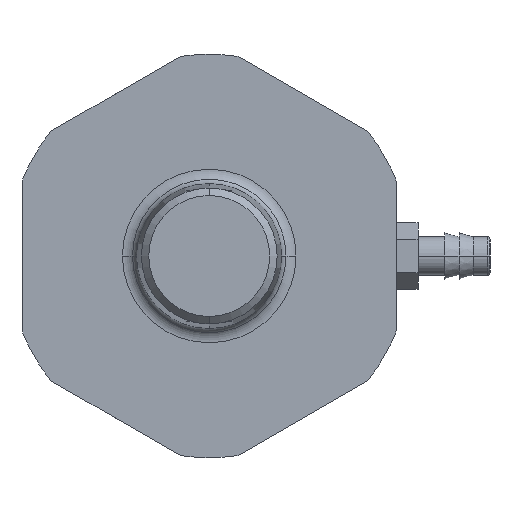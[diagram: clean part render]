
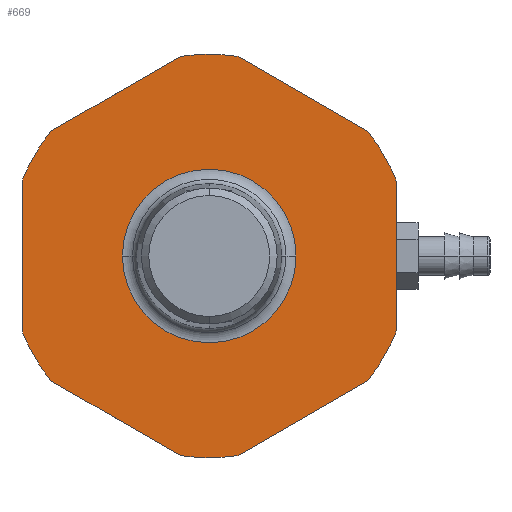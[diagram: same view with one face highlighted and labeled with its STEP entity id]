
A CAD part, left-side view. The second image highlights one B-rep face of the part: STEP entity #669.
In plain terms, the highlighted planar face has unit normal (-1, 0, 0).
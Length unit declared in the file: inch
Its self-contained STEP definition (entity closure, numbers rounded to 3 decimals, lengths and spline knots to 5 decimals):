
#203=CARTESIAN_POINT('',(-3.375,0.,0.));
#204=DIRECTION('',(-1.,0.,0.));
#205=DIRECTION('',(0.,0.143,-0.99));
#206=AXIS2_PLACEMENT_3D('',#203,#204,#205);
#208=DIRECTION('',(0.,-0.866,-0.5));
#209=VECTOR('',#208,0.64952);
#210=CARTESIAN_POINT('',(-3.375,0.6875,-0.54127));
#211=LINE('',#210,#209);
#212=CARTESIAN_POINT('',(-3.375,0.,0.));
#213=DIRECTION('',(-1.,0.,0.));
#214=DIRECTION('',(0.,0.866,-0.5));
#215=AXIS2_PLACEMENT_3D('',#212,#213,#214);
#217=CARTESIAN_POINT('',(-3.375,0.,0.));
#218=DIRECTION('',(-1.,0.,0.));
#219=DIRECTION('',(0.,0.929,-0.371));
#220=AXIS2_PLACEMENT_3D('',#217,#218,#219);
#222=DIRECTION('',(0.,0.,-1.));
#223=VECTOR('',#222,0.64952);
#224=CARTESIAN_POINT('',(-3.375,0.8125,0.32476));
#225=LINE('',#224,#223);
#226=CARTESIAN_POINT('',(-3.375,0.,0.));
#227=DIRECTION('',(-1.,0.,0.));
#228=DIRECTION('',(0.,0.866,0.5));
#229=AXIS2_PLACEMENT_3D('',#226,#227,#228);
#231=CARTESIAN_POINT('',(-3.375,0.,0.));
#232=DIRECTION('',(-1.,0.,0.));
#233=DIRECTION('',(0.,0.786,0.619));
#234=AXIS2_PLACEMENT_3D('',#231,#232,#233);
#236=DIRECTION('',(0.,0.866,-0.5));
#237=VECTOR('',#236,0.64952);
#238=CARTESIAN_POINT('',(-3.375,0.125,0.86603));
#239=LINE('',#238,#237);
#240=CARTESIAN_POINT('',(-3.375,0.,0.));
#241=DIRECTION('',(-1.,0.,0.));
#242=DIRECTION('',(0.,0.,1.));
#243=AXIS2_PLACEMENT_3D('',#240,#241,#242);
#245=CARTESIAN_POINT('',(-3.375,0.,0.));
#246=DIRECTION('',(-1.,0.,0.));
#247=DIRECTION('',(0.,-0.143,0.99));
#248=AXIS2_PLACEMENT_3D('',#245,#246,#247);
#250=DIRECTION('',(0.,0.866,0.5));
#251=VECTOR('',#250,0.64952);
#252=CARTESIAN_POINT('',(-3.375,-0.6875,0.54127));
#253=LINE('',#252,#251);
#254=CARTESIAN_POINT('',(-3.375,0.,0.));
#255=DIRECTION('',(-1.,0.,0.));
#256=DIRECTION('',(0.,-0.866,0.5));
#257=AXIS2_PLACEMENT_3D('',#254,#255,#256);
#259=CARTESIAN_POINT('',(-3.375,0.,0.));
#260=DIRECTION('',(-1.,0.,0.));
#261=DIRECTION('',(0.,-0.929,0.371));
#262=AXIS2_PLACEMENT_3D('',#259,#260,#261);
#264=DIRECTION('',(0.,0.,1.));
#265=VECTOR('',#264,0.64952);
#266=CARTESIAN_POINT('',(-3.375,-0.8125,-0.32476));
#267=LINE('',#266,#265);
#268=CARTESIAN_POINT('',(-3.375,0.,0.));
#269=DIRECTION('',(-1.,0.,0.));
#270=DIRECTION('',(0.,-0.866,-0.5));
#271=AXIS2_PLACEMENT_3D('',#268,#269,#270);
#273=CARTESIAN_POINT('',(-3.375,0.,0.));
#274=DIRECTION('',(-1.,0.,0.));
#275=DIRECTION('',(0.,-0.786,-0.619));
#276=AXIS2_PLACEMENT_3D('',#273,#274,#275);
#278=DIRECTION('',(0.,-0.866,0.5));
#279=VECTOR('',#278,0.64952);
#280=CARTESIAN_POINT('',(-3.375,-0.125,-0.86603));
#281=LINE('',#280,#279);
#282=CARTESIAN_POINT('',(-3.375,0.,0.));
#283=DIRECTION('',(-1.,0.,0.));
#284=DIRECTION('',(0.,0.,-1.));
#285=AXIS2_PLACEMENT_3D('',#282,#283,#284);
#287=CARTESIAN_POINT('',(-3.375,0.,0.));
#288=DIRECTION('',(1.,0.,0.));
#289=DIRECTION('',(0.,0.,1.));
#290=AXIS2_PLACEMENT_3D('',#287,#288,#289);
#292=CARTESIAN_POINT('',(-3.375,0.,0.));
#293=DIRECTION('',(1.,0.,0.));
#294=DIRECTION('',(0.,1.,0.));
#295=AXIS2_PLACEMENT_3D('',#292,#293,#294);
#297=CARTESIAN_POINT('',(-3.375,0.,0.));
#298=DIRECTION('',(1.,0.,0.));
#299=DIRECTION('',(0.,-1.,0.));
#300=AXIS2_PLACEMENT_3D('',#297,#298,#299);
#520=CARTESIAN_POINT('',(-3.375,0.,-0.875));
#521=CARTESIAN_POINT('',(-3.375,-0.125,-0.86603));
#522=VERTEX_POINT('',#520);
#523=VERTEX_POINT('',#521);
#524=CARTESIAN_POINT('',(-3.375,0.125,-0.86603));
#525=VERTEX_POINT('',#524);
#530=CARTESIAN_POINT('',(-3.375,-0.6875,-0.54127));
#531=VERTEX_POINT('',#530);
#532=CARTESIAN_POINT('',(-3.375,0.6875,-0.54127));
#533=VERTEX_POINT('',#532);
#538=CARTESIAN_POINT('',(-3.375,-0.75777,-0.4375));
#539=CARTESIAN_POINT('',(-3.375,-0.8125,-0.32476));
#540=VERTEX_POINT('',#538);
#541=VERTEX_POINT('',#539);
#542=CARTESIAN_POINT('',(-3.375,0.75777,-0.4375));
#543=VERTEX_POINT('',#542);
#544=CARTESIAN_POINT('',(-3.375,0.8125,-0.32476));
#545=VERTEX_POINT('',#544);
#552=CARTESIAN_POINT('',(-3.375,-0.8125,0.32476));
#553=VERTEX_POINT('',#552);
#554=CARTESIAN_POINT('',(-3.375,0.8125,0.32476));
#555=VERTEX_POINT('',#554);
#562=CARTESIAN_POINT('',(-3.375,-0.75777,0.4375));
#563=CARTESIAN_POINT('',(-3.375,-0.6875,0.54127));
#564=VERTEX_POINT('',#562);
#565=VERTEX_POINT('',#563);
#566=CARTESIAN_POINT('',(-3.375,0.75777,0.4375));
#567=VERTEX_POINT('',#566);
#568=CARTESIAN_POINT('',(-3.375,0.6875,0.54127));
#569=VERTEX_POINT('',#568);
#576=CARTESIAN_POINT('',(-3.375,-0.125,0.86603));
#577=VERTEX_POINT('',#576);
#578=CARTESIAN_POINT('',(-3.375,0.125,0.86603));
#579=VERTEX_POINT('',#578);
#586=CARTESIAN_POINT('',(-3.375,0.,0.875));
#587=VERTEX_POINT('',#586);
#600=CARTESIAN_POINT('',(-3.375,0.37658,0.));
#601=VERTEX_POINT('',#600);
#602=CARTESIAN_POINT('',(-3.375,-0.37658,0.));
#603=VERTEX_POINT('',#602);
#604=CARTESIAN_POINT('',(-3.375,0.,0.37658));
#605=VERTEX_POINT('',#604);
#618=CARTESIAN_POINT('',(-3.375,0.,0.));
#619=DIRECTION('',(-1.,0.,0.));
#620=DIRECTION('',(0.,0.,1.));
#621=AXIS2_PLACEMENT_3D('',#618,#619,#620);
#622=PLANE('',#621);
#624=ORIENTED_EDGE('',*,*,#623,.F.);
#626=ORIENTED_EDGE('',*,*,#625,.F.);
#628=ORIENTED_EDGE('',*,*,#627,.F.);
#630=ORIENTED_EDGE('',*,*,#629,.F.);
#632=ORIENTED_EDGE('',*,*,#631,.F.);
#634=ORIENTED_EDGE('',*,*,#633,.F.);
#636=ORIENTED_EDGE('',*,*,#635,.F.);
#638=ORIENTED_EDGE('',*,*,#637,.F.);
#640=ORIENTED_EDGE('',*,*,#639,.F.);
#642=ORIENTED_EDGE('',*,*,#641,.F.);
#644=ORIENTED_EDGE('',*,*,#643,.F.);
#646=ORIENTED_EDGE('',*,*,#645,.F.);
#648=ORIENTED_EDGE('',*,*,#647,.F.);
#650=ORIENTED_EDGE('',*,*,#649,.F.);
#652=ORIENTED_EDGE('',*,*,#651,.F.);
#654=ORIENTED_EDGE('',*,*,#653,.F.);
#656=ORIENTED_EDGE('',*,*,#655,.F.);
#658=ORIENTED_EDGE('',*,*,#657,.F.);
#659=EDGE_LOOP('',(#624,#626,#628,#630,#632,#634,#636,#638,#640,#642,#644,#646,
#648,#650,#652,#654,#656,#658));
#660=FACE_OUTER_BOUND('',#659,.F.);
#662=ORIENTED_EDGE('',*,*,#661,.F.);
#664=ORIENTED_EDGE('',*,*,#663,.F.);
#666=ORIENTED_EDGE('',*,*,#665,.F.);
#667=EDGE_LOOP('',(#662,#664,#666));
#668=FACE_BOUND('',#667,.F.);
#207=CIRCLE('',#206,0.875);
#216=CIRCLE('',#215,0.875);
#221=CIRCLE('',#220,0.875);
#230=CIRCLE('',#229,0.875);
#235=CIRCLE('',#234,0.875);
#244=CIRCLE('',#243,0.875);
#249=CIRCLE('',#248,0.875);
#258=CIRCLE('',#257,0.875);
#263=CIRCLE('',#262,0.875);
#272=CIRCLE('',#271,0.875);
#277=CIRCLE('',#276,0.875);
#286=CIRCLE('',#285,0.875);
#291=CIRCLE('',#290,0.37658);
#296=CIRCLE('',#295,0.37658);
#301=CIRCLE('',#300,0.37658);
#623=EDGE_CURVE('',#525,#522,#207,.T.);
#625=EDGE_CURVE('',#533,#525,#211,.T.);
#627=EDGE_CURVE('',#543,#533,#216,.T.);
#629=EDGE_CURVE('',#545,#543,#221,.T.);
#631=EDGE_CURVE('',#555,#545,#225,.T.);
#633=EDGE_CURVE('',#567,#555,#230,.T.);
#635=EDGE_CURVE('',#569,#567,#235,.T.);
#637=EDGE_CURVE('',#579,#569,#239,.T.);
#639=EDGE_CURVE('',#587,#579,#244,.T.);
#641=EDGE_CURVE('',#577,#587,#249,.T.);
#643=EDGE_CURVE('',#565,#577,#253,.T.);
#645=EDGE_CURVE('',#564,#565,#258,.T.);
#647=EDGE_CURVE('',#553,#564,#263,.T.);
#649=EDGE_CURVE('',#541,#553,#267,.T.);
#651=EDGE_CURVE('',#540,#541,#272,.T.);
#653=EDGE_CURVE('',#531,#540,#277,.T.);
#655=EDGE_CURVE('',#523,#531,#281,.T.);
#657=EDGE_CURVE('',#522,#523,#286,.T.);
#661=EDGE_CURVE('',#605,#603,#291,.T.);
#663=EDGE_CURVE('',#601,#605,#296,.T.);
#665=EDGE_CURVE('',#603,#601,#301,.T.);
#669=ADVANCED_FACE('',(#660,#668),#622,.T.);
